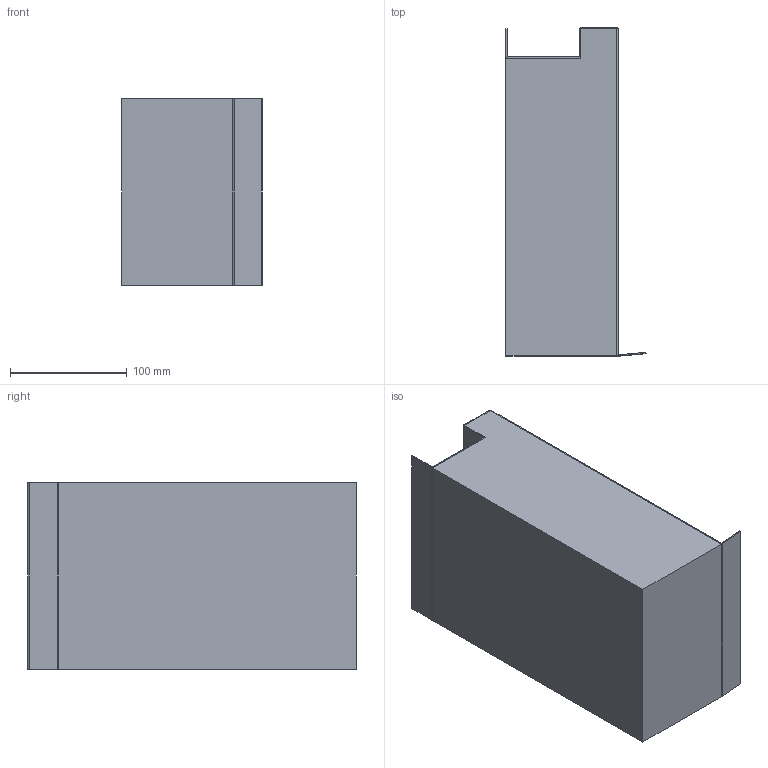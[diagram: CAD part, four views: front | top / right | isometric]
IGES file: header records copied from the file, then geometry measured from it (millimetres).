
Start section: 3D InterOp IGES (Version 26 1 0), Spatial Corp. Copyright (c) 1999-2007.
Global section: file name: CMP.igs; native system: Spatial Corp.; preprocessor: 3D InterOp GENERIC/IGES 3.0; author: Noname; organization: Noname; date: 20181022.130401; units: millimetre
Bounding box: 120 x 281 x 160 mm (x, y, z)
Surface area: 314567.9 mm2 (no closed solid volume)
Topology: 0 solids, 0 shells, 29 faces, 150 edges, 150 vertices
Faces by surface type: extrusion 24, revolution 5
